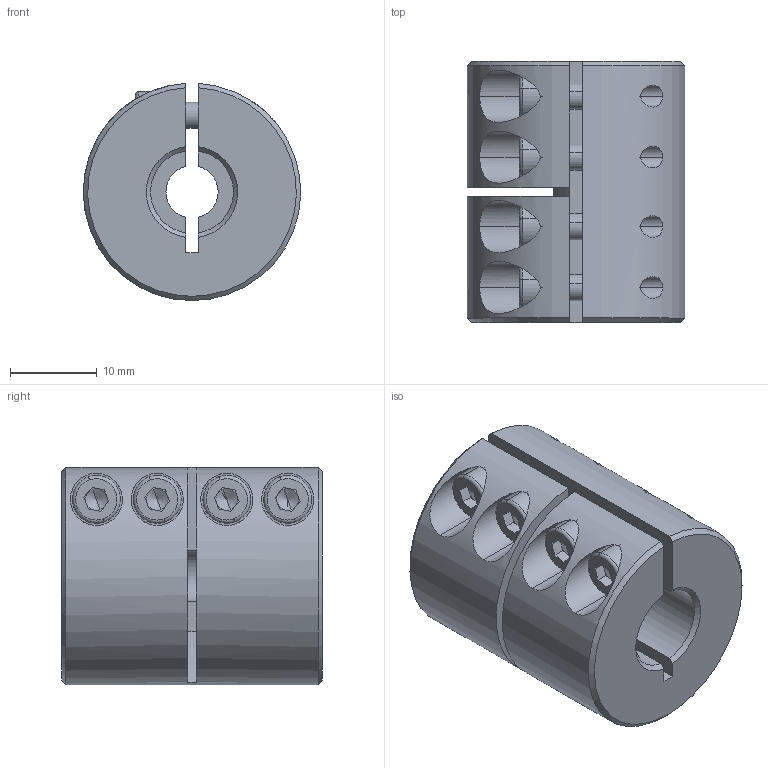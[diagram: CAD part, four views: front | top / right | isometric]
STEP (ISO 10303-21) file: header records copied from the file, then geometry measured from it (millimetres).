
FILE_DESCRIPTION (( 'STEP AP214' ), '1' );
FILE_NAME ('LL-B-D25L30-6-9.525½¨Ä£.STEP', '2022-07-21T03:10:01', ( '' ), ( '' ), 'SwSTEP 2.0', 'SolidWorks 2022', '' );
FILE_SCHEMA (( 'AUTOMOTIVE_DESIGN' ));
Length unit declared in the file: millimetre
Products named in the file (1): LL-B-D25L30-6-9.525膘耀
Bounding box: 24.99 x 30 x 24.98 mm (x, y, z)
Volume: 12096.9 mm3; surface area: 5920.4 mm2
Topology: 1 solids, 1 shells, 164 faces, 418 edges, 264 vertices
Faces by surface type: plane 83, cylinder 58, cone 15, torus 8
Entity records: 5402 total; most frequent: CARTESIAN_POINT 1363, DIRECTION 862, ORIENTED_EDGE 820, EDGE_CURVE 410, AXIS2_PLACEMENT_3D 331, VERTEX_POINT 264, LINE 200, VECTOR 200
